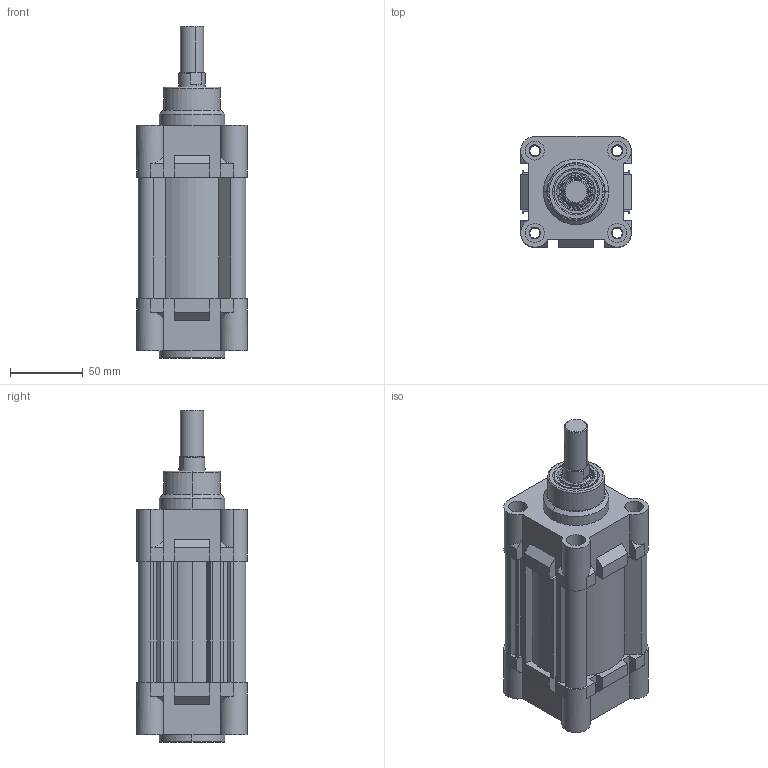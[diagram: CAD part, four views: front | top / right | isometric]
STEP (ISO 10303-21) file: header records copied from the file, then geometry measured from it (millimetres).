
FILE_DESCRIPTION (( 'STEP AP214' ), '1' );
FILE_NAME ('RIC_63_50_WEB.STEP', '2020-07-18T16:25:47', ( '' ), ( '' ), 'SwSTEP 2.0', 'SolidWorks 2018', '' );
FILE_SCHEMA (( 'AUTOMOTIVE_DESIGN' ));
Length unit declared in the file: millimetre
Products named in the file (7): ric63bogazkecesi; ric63yastikkecesi; RIC_63_50_WEB; ric63onkapak; 63_BORU_WEB; 20_K_MIL_WEB; ric63arkakapak
Assembly tree (7 placements, depth 2):
  RIC_63_50_WEB
    63_BORU_WEB
    ric63onkapak
    ric63arkakapak
    ric63bogazkecesi
    ric63yastikkecesi  x2
    20_K_MIL_WEB
Bounding box: 76 x 76 x 228 mm (x, y, z)
Volume: 506863.9 mm3; surface area: 146941.9 mm2
Topology: 7 solids, 7 shells, 709 faces, 1751 edges, 1102 vertices
Faces by surface type: plane 280, cylinder 220, torus 134, cone 56, bspline 19
Entity records: 21075 total; most frequent: CARTESIAN_POINT 4906, DIRECTION 3090, ORIENTED_EDGE 2910, EDGE_CURVE 1455, AXIS2_PLACEMENT_3D 1135, VERTEX_POINT 925, VECTOR 820, LINE 820
